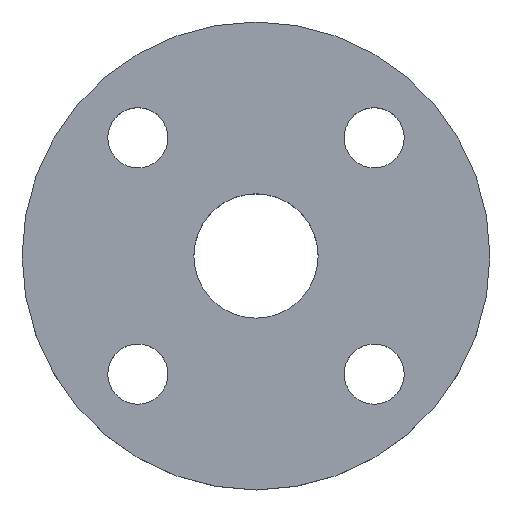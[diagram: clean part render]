
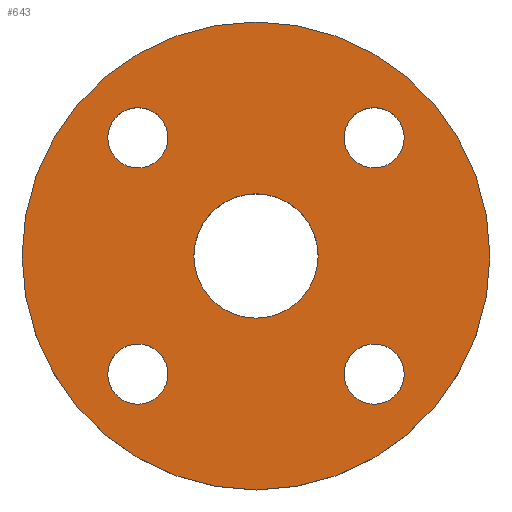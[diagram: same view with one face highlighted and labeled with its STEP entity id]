
A CAD part, top view. The second image highlights one B-rep face of the part: STEP entity #643.
In plain terms, the highlighted planar face has unit normal (0, 0, 1).
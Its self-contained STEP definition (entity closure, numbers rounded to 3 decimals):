
#1 = CIRCLE ( 'NONE', #435, 70. ) ;
#3 = CARTESIAN_POINT ( 'NONE',  ( -35.355, -35.355, 0. ) ) ;
#15 = FACE_BOUND ( 'NONE', #605, .T. ) ;
#22 = VERTEX_POINT ( 'NONE', #343 ) ;
#26 = ORIENTED_EDGE ( 'NONE', *, *, #89, .T. ) ;
#30 = VERTEX_POINT ( 'NONE', #562 ) ;
#31 = CIRCLE ( 'NONE', #455, 9. ) ;
#35 = VERTEX_POINT ( 'NONE', #41 ) ;
#36 = CIRCLE ( 'NONE', #37, 9. ) ;
#37 = AXIS2_PLACEMENT_3D ( 'NONE', #290, #507, #730 ) ;
#41 = CARTESIAN_POINT ( 'NONE',  ( -26.355, 35.355, 0. ) ) ;
#43 = CIRCLE ( 'NONE', #462, 18.6 ) ;
#46 = DIRECTION ( 'NONE',  ( -1., 0., 0. ) ) ;
#60 = CARTESIAN_POINT ( 'NONE',  ( -35.355, 35.355, 0. ) ) ;
#70 = VERTEX_POINT ( 'NONE', #618 ) ;
#72 = FACE_BOUND ( 'NONE', #593, .T. ) ;
#73 = VERTEX_POINT ( 'NONE', #104 ) ;
#78 = AXIS2_PLACEMENT_3D ( 'NONE', #403, #619, #105 ) ;
#85 = VERTEX_POINT ( 'NONE', #566 ) ;
#89 = EDGE_CURVE ( 'NONE', #146, #480, #36, .T. ) ;
#92 = VERTEX_POINT ( 'NONE', #230 ) ;
#95 = AXIS2_PLACEMENT_3D ( 'NONE', #3, #246, #465 ) ;
#104 = CARTESIAN_POINT ( 'NONE',  ( -44.355, -35.355, 0. ) ) ;
#105 = DIRECTION ( 'NONE',  ( -1., 0., 0. ) ) ;
#107 = DIRECTION ( 'NONE',  ( -1., 0., 0. ) ) ;
#134 = AXIS2_PLACEMENT_3D ( 'NONE', #140, #375, #591 ) ;
#140 = CARTESIAN_POINT ( 'NONE',  ( 0., 0., 0. ) ) ;
#143 = EDGE_LOOP ( 'NONE', ( #429, #383 ) ) ;
#146 = VERTEX_POINT ( 'NONE', #257 ) ;
#150 = ORIENTED_EDGE ( 'NONE', *, *, #399, .T. ) ;
#151 = CARTESIAN_POINT ( 'NONE',  ( -18.6, 0., 0. ) ) ;
#152 = EDGE_CURVE ( 'NONE', #85, #22, #156, .T. ) ;
#156 = CIRCLE ( 'NONE', #134, 70. ) ;
#159 = ORIENTED_EDGE ( 'NONE', *, *, #546, .T. ) ;
#179 = CARTESIAN_POINT ( 'NONE',  ( 0., 0., 0. ) ) ;
#183 = AXIS2_PLACEMENT_3D ( 'NONE', #348, #568, #46 ) ;
#187 = VERTEX_POINT ( 'NONE', #268 ) ;
#192 = DIRECTION ( 'NONE',  ( -1., 0., 0. ) ) ;
#195 = VERTEX_POINT ( 'NONE', #151 ) ;
#197 = CIRCLE ( 'NONE', #608, 9. ) ;
#204 = CARTESIAN_POINT ( 'NONE',  ( 0., 0., 0. ) ) ;
#219 = DIRECTION ( 'NONE',  ( 0., 0., -1. ) ) ;
#230 = CARTESIAN_POINT ( 'NONE',  ( -44.355, 35.355, 0. ) ) ;
#233 = CARTESIAN_POINT ( 'NONE',  ( -35.355, 35.355, 0. ) ) ;
#239 = CARTESIAN_POINT ( 'NONE',  ( 26.355, -35.355, 0. ) ) ;
#241 = DIRECTION ( 'NONE',  ( -1., 0., 0. ) ) ;
#246 = DIRECTION ( 'NONE',  ( 0., 0., -1. ) ) ;
#247 = ORIENTED_EDGE ( 'NONE', *, *, #539, .T. ) ;
#255 = EDGE_CURVE ( 'NONE', #480, #146, #197, .T. ) ;
#257 = CARTESIAN_POINT ( 'NONE',  ( 44.355, -35.355, 0. ) ) ;
#260 = AXIS2_PLACEMENT_3D ( 'NONE', #468, #691, #192 ) ;
#261 = FACE_BOUND ( 'NONE', #143, .T. ) ;
#268 = CARTESIAN_POINT ( 'NONE',  ( 44.355, 35.355, 0. ) ) ;
#290 = CARTESIAN_POINT ( 'NONE',  ( 35.355, -35.355, 0. ) ) ;
#304 = DIRECTION ( 'NONE',  ( 0., 0., -1. ) ) ;
#316 = FACE_BOUND ( 'NONE', #657, .T. ) ;
#321 = AXIS2_PLACEMENT_3D ( 'NONE', #204, #426, #649 ) ;
#337 = CIRCLE ( 'NONE', #735, 9. ) ;
#343 = CARTESIAN_POINT ( 'NONE',  ( 70., 0., 0. ) ) ;
#347 = AXIS2_PLACEMENT_3D ( 'NONE', #233, #456, #679 ) ;
#348 = CARTESIAN_POINT ( 'NONE',  ( 35.355, 35.355, 0. ) ) ;
#356 = EDGE_CURVE ( 'NONE', #70, #195, #410, .T. ) ;
#360 = EDGE_CURVE ( 'NONE', #30, #187, #503, .T. ) ;
#375 = DIRECTION ( 'NONE',  ( 0., 0., 1. ) ) ;
#376 = CARTESIAN_POINT ( 'NONE',  ( -26.355, -35.355, 0. ) ) ;
#379 = EDGE_CURVE ( 'NONE', #195, #70, #43, .T. ) ;
#383 = ORIENTED_EDGE ( 'NONE', *, *, #356, .T. ) ;
#399 = EDGE_CURVE ( 'NONE', #92, #35, #655, .T. ) ;
#403 = CARTESIAN_POINT ( 'NONE',  ( 0., 0., 0. ) ) ;
#405 = CARTESIAN_POINT ( 'NONE',  ( 0., 0., 0. ) ) ;
#407 = DIRECTION ( 'NONE',  ( 0., 0., 1. ) ) ;
#410 = CIRCLE ( 'NONE', #78, 18.6 ) ;
#418 = CIRCLE ( 'NONE', #95, 9. ) ;
#424 = ORIENTED_EDGE ( 'NONE', *, *, #152, .T. ) ;
#426 = DIRECTION ( 'NONE',  ( 0., 0., 1. ) ) ;
#428 = EDGE_CURVE ( 'NONE', #22, #85, #1, .T. ) ;
#429 = ORIENTED_EDGE ( 'NONE', *, *, #379, .T. ) ;
#435 = AXIS2_PLACEMENT_3D ( 'NONE', #179, #407, #625 ) ;
#440 = EDGE_LOOP ( 'NONE', ( #247, #150 ) ) ;
#441 = DIRECTION ( 'NONE',  ( -1., 0., 0. ) ) ;
#455 = AXIS2_PLACEMENT_3D ( 'NONE', #515, #743, #241 ) ;
#456 = DIRECTION ( 'NONE',  ( 0., 0., -1. ) ) ;
#462 = AXIS2_PLACEMENT_3D ( 'NONE', #405, #623, #107 ) ;
#465 = DIRECTION ( 'NONE',  ( -1., 0., 0. ) ) ;
#468 = CARTESIAN_POINT ( 'NONE',  ( -35.355, -35.355, 0. ) ) ;
#479 = FACE_OUTER_BOUND ( 'NONE', #607, .T. ) ;
#480 = VERTEX_POINT ( 'NONE', #239 ) ;
#503 = CIRCLE ( 'NONE', #183, 9. ) ;
#507 = DIRECTION ( 'NONE',  ( 0., 0., -1. ) ) ;
#515 = CARTESIAN_POINT ( 'NONE',  ( 35.355, 35.355, 0. ) ) ;
#518 = DIRECTION ( 'NONE',  ( -1., 0., 0. ) ) ;
#523 = EDGE_CURVE ( 'NONE', #187, #30, #31, .T. ) ;
#532 = FACE_BOUND ( 'NONE', #440, .T. ) ;
#539 = EDGE_CURVE ( 'NONE', #35, #92, #337, .T. ) ;
#546 = EDGE_CURVE ( 'NONE', #73, #650, #418, .T. ) ;
#562 = CARTESIAN_POINT ( 'NONE',  ( 26.355, 35.355, 0. ) ) ;
#566 = CARTESIAN_POINT ( 'NONE',  ( -70., 0., 0. ) ) ;
#568 = DIRECTION ( 'NONE',  ( 0., 0., -1. ) ) ;
#573 = CIRCLE ( 'NONE', #260, 9. ) ;
#590 = ORIENTED_EDGE ( 'NONE', *, *, #255, .T. ) ;
#591 = DIRECTION ( 'NONE',  ( 1., 0., 0. ) ) ;
#593 = EDGE_LOOP ( 'NONE', ( #26, #590 ) ) ;
#605 = EDGE_LOOP ( 'NONE', ( #660, #744 ) ) ;
#607 = EDGE_LOOP ( 'NONE', ( #615, #424 ) ) ;
#608 = AXIS2_PLACEMENT_3D ( 'NONE', #719, #219, #441 ) ;
#613 = EDGE_CURVE ( 'NONE', #650, #73, #573, .T. ) ;
#615 = ORIENTED_EDGE ( 'NONE', *, *, #428, .T. ) ;
#618 = CARTESIAN_POINT ( 'NONE',  ( 18.6, 0., 0. ) ) ;
#619 = DIRECTION ( 'NONE',  ( 0., 0., -1. ) ) ;
#623 = DIRECTION ( 'NONE',  ( 0., 0., -1. ) ) ;
#625 = DIRECTION ( 'NONE',  ( 1., 0., 0. ) ) ;
#643 = ADVANCED_FACE ( 'NONE', ( #72, #316, #532, #15, #261, #479 ), #703, .T. ) ;
#646 = ORIENTED_EDGE ( 'NONE', *, *, #613, .T. ) ;
#649 = DIRECTION ( 'NONE',  ( 1., 0., 0. ) ) ;
#650 = VERTEX_POINT ( 'NONE', #376 ) ;
#655 = CIRCLE ( 'NONE', #347, 9. ) ;
#657 = EDGE_LOOP ( 'NONE', ( #646, #159 ) ) ;
#660 = ORIENTED_EDGE ( 'NONE', *, *, #523, .T. ) ;
#679 = DIRECTION ( 'NONE',  ( -1., 0., 0. ) ) ;
#691 = DIRECTION ( 'NONE',  ( 0., 0., -1. ) ) ;
#703 = PLANE ( 'NONE',  #321 ) ;
#719 = CARTESIAN_POINT ( 'NONE',  ( 35.355, -35.355, 0. ) ) ;
#730 = DIRECTION ( 'NONE',  ( -1., 0., 0. ) ) ;
#735 = AXIS2_PLACEMENT_3D ( 'NONE', #60, #304, #518 ) ;
#743 = DIRECTION ( 'NONE',  ( 0., 0., -1. ) ) ;
#744 = ORIENTED_EDGE ( 'NONE', *, *, #360, .T. ) ;
